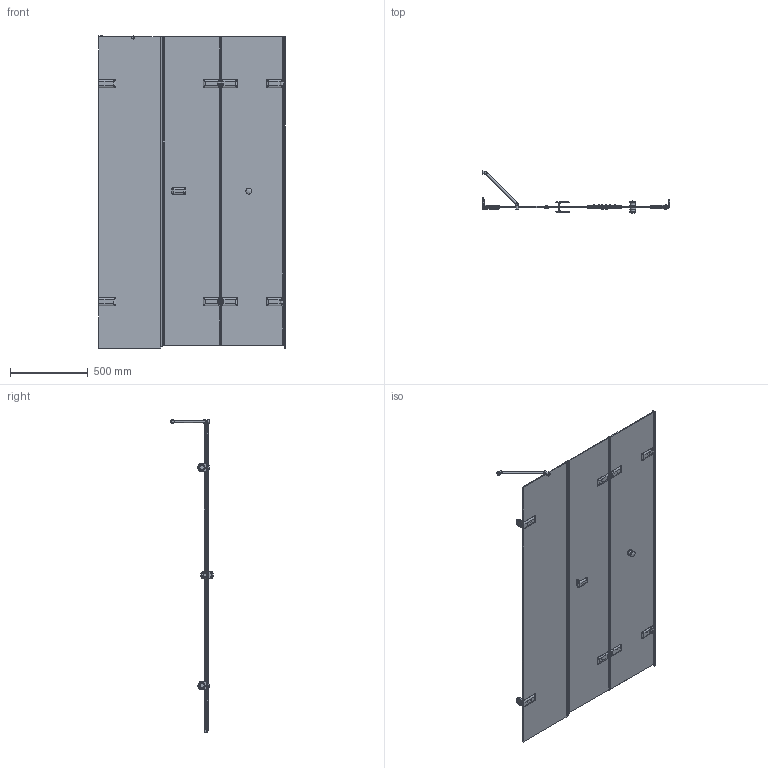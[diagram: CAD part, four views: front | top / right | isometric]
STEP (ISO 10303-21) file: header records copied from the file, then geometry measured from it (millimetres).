
FILE_DESCRIPTION(/* description */ (''),/* implementation_level */ '2;1');
FILE_NAME(/* name */ 'D:\7\TREND DOOR GK-863C\TREND DOOR GK-863C правая модель\TREND DOOR GK-863C ПРАВАЯ-3D.stp',/* time_stamp */ '2020-08-02T18:24:48+03:00',/* author */ ('User'),/* organization */ (''),/* preprocessor_version */ 'ST-DEVELOPER v15.2',/* originating_system */ 'Autodesk Inventor 2014',/* authorisation */ '');
FILE_SCHEMA (('AUTOMOTIVE_DESIGN { 1 0 10303 214 3 1 1 }'));
Products named in the file (1): TREND DOOR GK-863C ПРАВАЯ-3D
Bounding box: 1200 x 273.24 x 2008.49 mm (x, y, z)
Volume: 15614351.1 mm3; surface area: 5239596.7 mm2
Topology: 5 solids, 24 shells, 1719 faces, 4720 edges, 2990 vertices
Faces by surface type: plane 942, cylinder 499, bspline 168, cone 54, torus 37, sphere 19
Full cylindrical faces by diameter (mm): 4 x2, 4.134 x2, 4.917 x6, 5 x6, 5.2 x2, 6 x8, 7 x2, 7.2 x4, 8 x3, 9 x8, 11 x3, 12 x2, 13 x10, 15 x1, 16 x10, 20 x2, 26 x1, 28 x2, 28.5 x2, 30 x2, 38 x4, 40 x2
Entity records: 72636 total; most frequent: CARTESIAN_POINT 28383, ORIENTED_EDGE 8924, DIRECTION 8589, EDGE_CURVE 4456, AXIS2_PLACEMENT_3D 2970, VERTEX_POINT 2933, LINE 2649, VECTOR 2649
